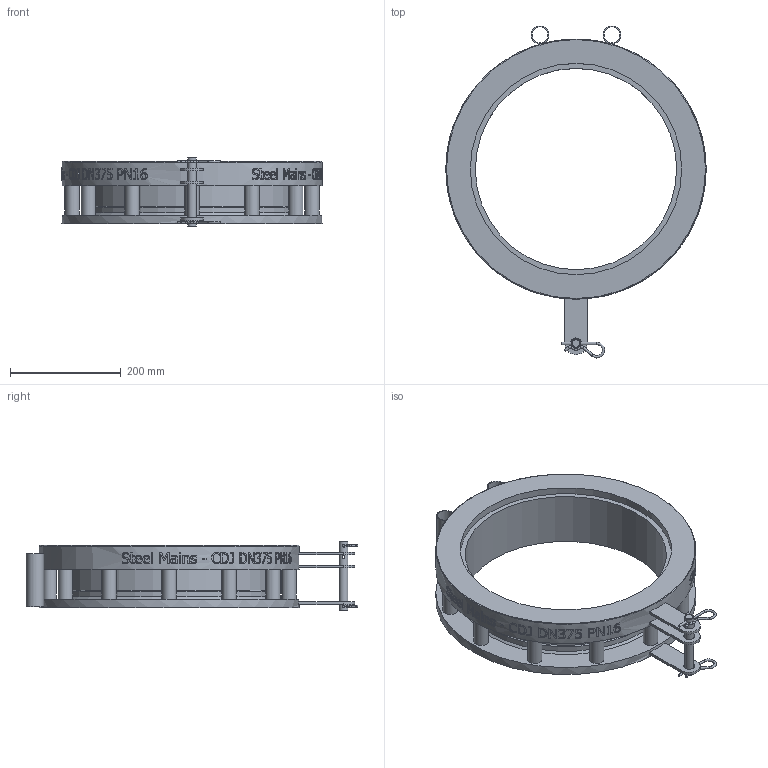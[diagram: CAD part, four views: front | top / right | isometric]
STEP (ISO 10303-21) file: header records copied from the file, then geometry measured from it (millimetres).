
FILE_DESCRIPTION(/* description */ (''),/* implementation_level */ '2;1');
FILE_NAME(/* name */ 'C:\Vault\Designs\Somerton\196\196-12 Models\Marketing Files\SteelMains - CDJ DN375 PN16 - (196-12T rev D).stp',/* time_stamp */ '2025-08-22T15:14:24+10:00',/* author */ ('Sam.Cavallaro'),/* organization */ (''),/* preprocessor_version */ 'ST-DEVELOPER v18.1',/* originating_system */ 'Autodesk Inventor 2021',/* authorisation */ '');
FILE_SCHEMA (('AUTOMOTIVE_DESIGN { 1 0 10303 214 3 1 1 }'));
Length unit declared in the file: millimetre
Products named in the file (1): SPS_ENG-084477
Bounding box: 469 x 598.44 x 125 mm (x, y, z)
Volume: 4838448.7 mm3; surface area: 648671.7 mm2
Topology: 6 solids, 6 shells, 829 faces, 2258 edges, 1506 vertices
Faces by surface type: bspline 384, plane 327, cylinder 105, torus 8, cone 5
Full cylindrical faces by diameter (mm): 4 x10, 5 x3, 16 x1, 20 x3, 26 x12, 28.8 x2, 32 x2, 363 x1, 375 x1, 379 x1, 381 x1, 469 x1
Entity records: 36262 total; most frequent: CARTESIAN_POINT 17246, ORIENTED_EDGE 4522, DIRECTION 2780, EDGE_CURVE 2261, VERTEX_POINT 1509, LINE 1062, VECTOR 1062, EDGE_LOOP 936
